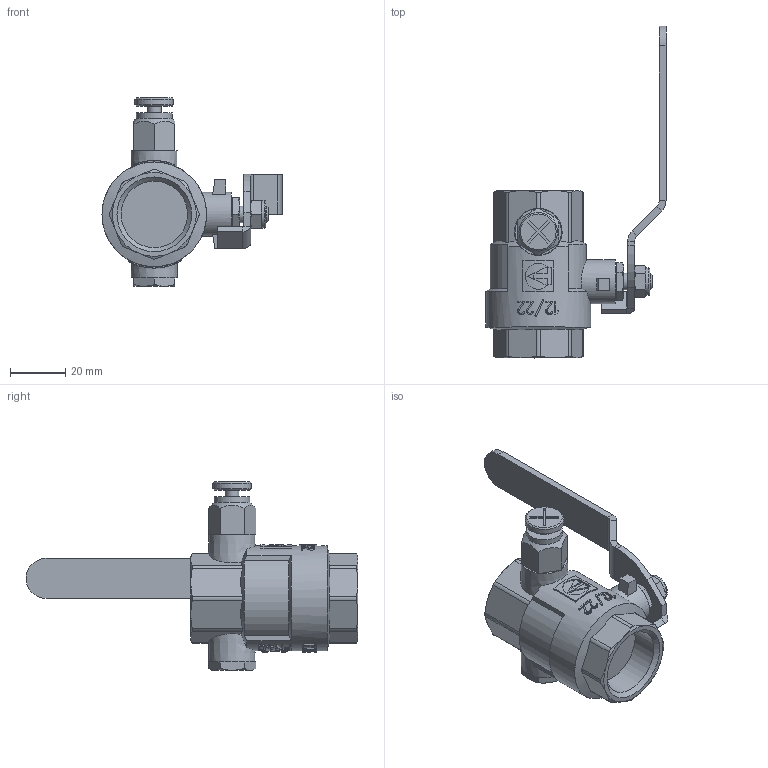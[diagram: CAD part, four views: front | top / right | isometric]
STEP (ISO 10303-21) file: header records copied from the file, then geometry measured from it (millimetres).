
FILE_DESCRIPTION(('STEP AP203'), '1');
FILE_NAME('VT.245.N.05', '2024-09-12T09:43:51', ('User'), ('Vesta'), 'C3D Converter', 'C3D Toolkit', '');
FILE_SCHEMA(('CONFIG_CONTROL_DESIGN'));
Length unit declared in the file: millimetre
Products named in the file (3): ВР.745303.001
Assembly tree (2 placements, depth 2):
  (unnamed)
    ВР.745303.001
    (unnamed)
Bounding box: 65.4 x 120.5 x 68.4 mm (x, y, z)
Volume: 59193.9 mm3; surface area: 17648.6 mm2
Topology: 1 solids, 1 shells, 806 faces, 2190 edges, 1427 vertices
Faces by surface type: extrusion 351, plane 330, cylinder 71, cone 53, torus 1
Full cylindrical faces by diameter (mm): 5 x1, 6 x2, 10 x1, 11 x1, 13 x1, 14 x1, 16 x1, 24.118 x2, 38 x1
Entity records: 38475 total; most frequent: CARTESIAN_POINT 20083, ORIENTED_EDGE 4332, DIRECTION 2665, EDGE_CURVE 2166, VERTEX_POINT 1427, VECTOR 1243, B_SPLINE_CURVE_WITH_KNOTS 1211, LINE 892
